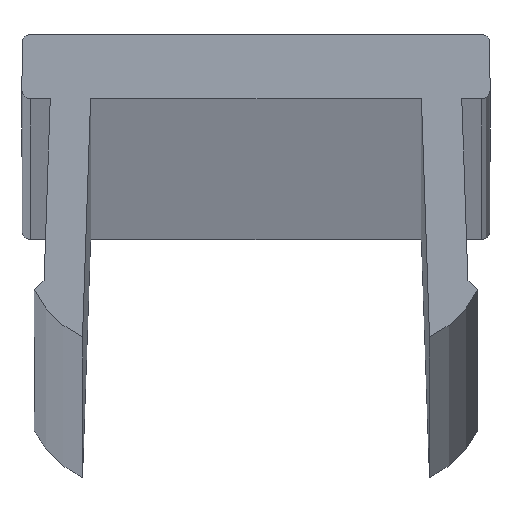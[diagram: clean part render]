
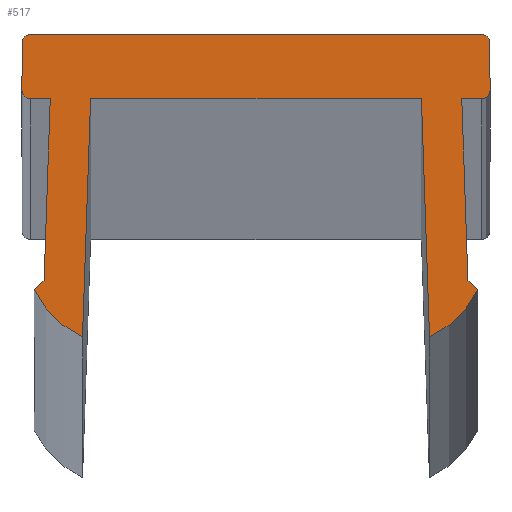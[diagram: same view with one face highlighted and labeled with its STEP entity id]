
A CAD part, top view. The second image highlights one B-rep face of the part: STEP entity #517.
In plain terms, the highlighted planar face has unit normal (0, 0, 1).
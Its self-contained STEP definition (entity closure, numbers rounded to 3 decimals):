
#3 = VERTEX_POINT ( 'NONE', #299 ) ;
#5 = CARTESIAN_POINT ( 'NONE',  ( 5.6, -0.2, 1000. ) ) ;
#7 = VECTOR ( 'NONE', #213, 1000. ) ;
#9 = VERTEX_POINT ( 'NONE', #400 ) ;
#13 = CIRCLE ( 'NONE', #441, 0.2 ) ;
#18 = VECTOR ( 'NONE', #393, 1000. ) ;
#24 = CARTESIAN_POINT ( 'NONE',  ( 5.1, -1.6, 1000. ) ) ;
#26 = VERTEX_POINT ( 'NONE', #521 ) ;
#30 = VERTEX_POINT ( 'NONE', #681 ) ;
#33 = CARTESIAN_POINT ( 'NONE',  ( -5.253, -6.1, 1000. ) ) ;
#44 = AXIS2_PLACEMENT_3D ( 'NONE', #502, #341, #667 ) ;
#50 = EDGE_CURVE ( 'NONE', #79, #30, #454, .T. ) ;
#52 = LINE ( 'NONE', #286, #497 ) ;
#65 = AXIS2_PLACEMENT_3D ( 'NONE', #397, #222, #564 ) ;
#68 = ORIENTED_EDGE ( 'NONE', *, *, #411, .T. ) ;
#71 = ORIENTED_EDGE ( 'NONE', *, *, #531, .T. ) ;
#77 = CARTESIAN_POINT ( 'NONE',  ( -4.1, -1.6, 1000. ) ) ;
#79 = VERTEX_POINT ( 'NONE', #33 ) ;
#83 = CARTESIAN_POINT ( 'NONE',  ( 5.5, -6.331, 1000. ) ) ;
#91 = CARTESIAN_POINT ( 'NONE',  ( 5.8, -0.2, 1000. ) ) ;
#99 = DIRECTION ( 'NONE',  ( 0., 0., -1. ) ) ;
#104 = CARTESIAN_POINT ( 'NONE',  ( 5.253, -6.1, 1000. ) ) ;
#109 = CARTESIAN_POINT ( 'NONE',  ( -5.6, -1.6, 1000. ) ) ;
#114 = VECTOR ( 'NONE', #422, 1000. ) ;
#117 = EDGE_CURVE ( 'NONE', #541, #416, #469, .T. ) ;
#127 = AXIS2_PLACEMENT_3D ( 'NONE', #590, #549, #595 ) ;
#130 = EDGE_CURVE ( 'NONE', #504, #306, #490, .T. ) ;
#133 = PLANE ( 'NONE',  #553 ) ;
#137 = CIRCLE ( 'NONE', #127, 0.2 ) ;
#138 = FACE_OUTER_BOUND ( 'NONE', #561, .T. ) ;
#141 = EDGE_CURVE ( 'NONE', #9, #26, #13, .T. ) ;
#143 = DIRECTION ( 'NONE',  ( 0., 0., 1. ) ) ;
#145 = ORIENTED_EDGE ( 'NONE', *, *, #383, .T. ) ;
#156 = AXIS2_PLACEMENT_3D ( 'NONE', #216, #99, #432 ) ;
#166 = CARTESIAN_POINT ( 'NONE',  ( 4.3, -7.5, 1000. ) ) ;
#169 = DIRECTION ( 'NONE',  ( 0.034, 0.999, 0. ) ) ;
#172 = ORIENTED_EDGE ( 'NONE', *, *, #141, .F. ) ;
#173 = DIRECTION ( 'NONE',  ( 0., 1., 0. ) ) ;
#175 = LINE ( 'NONE', #235, #401 ) ;
#193 = CARTESIAN_POINT ( 'NONE',  ( -5.1, -1.6, 1000. ) ) ;
#198 = VERTEX_POINT ( 'NONE', #104 ) ;
#200 = DIRECTION ( 'NONE',  ( 1., 0., 0. ) ) ;
#204 = VECTOR ( 'NONE', #673, 1000. ) ;
#207 = LINE ( 'NONE', #265, #114 ) ;
#213 = DIRECTION ( 'NONE',  ( -1., 0., 0. ) ) ;
#216 = CARTESIAN_POINT ( 'NONE',  ( 3.256, -5.228, 1000. ) ) ;
#217 = CARTESIAN_POINT ( 'NONE',  ( 5.253, -6.1, 1000. ) ) ;
#222 = DIRECTION ( 'NONE',  ( 0., 0., -1. ) ) ;
#230 = DIRECTION ( 'NONE',  ( 1., 0., 0. ) ) ;
#235 = CARTESIAN_POINT ( 'NONE',  ( -5.1, -1.6, 1000. ) ) ;
#243 = EDGE_CURVE ( 'NONE', #532, #452, #582, .T. ) ;
#244 = CARTESIAN_POINT ( 'NONE',  ( -5.6, 0., 1000. ) ) ;
#251 = ORIENTED_EDGE ( 'NONE', *, *, #117, .T. ) ;
#252 = DIRECTION ( 'NONE',  ( 1., 0., 0. ) ) ;
#265 = CARTESIAN_POINT ( 'NONE',  ( 5.253, -6.1, 1000. ) ) ;
#266 = EDGE_CURVE ( 'NONE', #532, #416, #606, .T. ) ;
#271 = CARTESIAN_POINT ( 'NONE',  ( 5.6, -1.4, 1000. ) ) ;
#276 = CIRCLE ( 'NONE', #310, 0.2 ) ;
#286 = CARTESIAN_POINT ( 'NONE',  ( 5.8, -0.2, 1000. ) ) ;
#291 = VECTOR ( 'NONE', #410, 1000. ) ;
#295 = LINE ( 'NONE', #577, #565 ) ;
#296 = CARTESIAN_POINT ( 'NONE',  ( -5.253, -6.1, 1000. ) ) ;
#297 = VECTOR ( 'NONE', #169, 1000. ) ;
#298 = CARTESIAN_POINT ( 'NONE',  ( -5.6, -1.6, 1000. ) ) ;
#299 = CARTESIAN_POINT ( 'NONE',  ( 5.6, 0., 1000. ) ) ;
#302 = CARTESIAN_POINT ( 'NONE',  ( -5.6, -0.2, 1000. ) ) ;
#306 = VERTEX_POINT ( 'NONE', #166 ) ;
#310 = AXIS2_PLACEMENT_3D ( 'NONE', #5, #335, #230 ) ;
#315 = EDGE_CURVE ( 'NONE', #9, #637, #52, .T. ) ;
#324 = CARTESIAN_POINT ( 'NONE',  ( -5.8, -0.2, 1000. ) ) ;
#326 = DIRECTION ( 'NONE',  ( 1., 0., 0. ) ) ;
#335 = DIRECTION ( 'NONE',  ( 0., 0., 1. ) ) ;
#339 = ORIENTED_EDGE ( 'NONE', *, *, #130, .F. ) ;
#341 = DIRECTION ( 'NONE',  ( 0., 0., -1. ) ) ;
#349 = DIRECTION ( 'NONE',  ( 1., 0., 0. ) ) ;
#352 = CARTESIAN_POINT ( 'NONE',  ( -5.6, -1.6, 1000. ) ) ;
#358 = VECTOR ( 'NONE', #326, 1000. ) ;
#362 = ORIENTED_EDGE ( 'NONE', *, *, #501, .T. ) ;
#371 = EDGE_CURVE ( 'NONE', #601, #30, #664, .T. ) ;
#372 = ORIENTED_EDGE ( 'NONE', *, *, #597, .F. ) ;
#375 = CARTESIAN_POINT ( 'NONE',  ( 5.6, 0., 1000. ) ) ;
#380 = EDGE_CURVE ( 'NONE', #637, #3, #276, .T. ) ;
#383 = EDGE_CURVE ( 'NONE', #601, #522, #558, .T. ) ;
#393 = DIRECTION ( 'NONE',  ( 0.034, -0.999, 0. ) ) ;
#397 = CARTESIAN_POINT ( 'NONE',  ( -3.256, -5.228, 1000. ) ) ;
#400 = CARTESIAN_POINT ( 'NONE',  ( 5.8, -1.4, 1000. ) ) ;
#401 = VECTOR ( 'NONE', #453, 1000. ) ;
#403 = ORIENTED_EDGE ( 'NONE', *, *, #433, .T. ) ;
#410 = DIRECTION ( 'NONE',  ( 0., -1., 0. ) ) ;
#411 = EDGE_CURVE ( 'NONE', #470, #306, #505, .T. ) ;
#416 = VERTEX_POINT ( 'NONE', #613 ) ;
#422 = DIRECTION ( 'NONE',  ( -0.034, 0.999, 0. ) ) ;
#431 = LINE ( 'NONE', #375, #7 ) ;
#432 = DIRECTION ( 'NONE',  ( 1., 0., 0. ) ) ;
#433 = EDGE_CURVE ( 'NONE', #452, #79, #175, .T. ) ;
#441 = AXIS2_PLACEMENT_3D ( 'NONE', #271, #700, #252 ) ;
#446 = CARTESIAN_POINT ( 'NONE',  ( 4.1, -1.6, 1000. ) ) ;
#451 = CARTESIAN_POINT ( 'NONE',  ( -4.3, -7.5, 1000. ) ) ;
#452 = VERTEX_POINT ( 'NONE', #193 ) ;
#453 = DIRECTION ( 'NONE',  ( -0.034, -0.999, 0. ) ) ;
#454 = LINE ( 'NONE', #296, #204 ) ;
#469 = LINE ( 'NONE', #324, #291 ) ;
#470 = VERTEX_POINT ( 'NONE', #638 ) ;
#481 = ORIENTED_EDGE ( 'NONE', *, *, #701, .T. ) ;
#490 = CIRCLE ( 'NONE', #156, 2.5 ) ;
#497 = VECTOR ( 'NONE', #173, 1000. ) ;
#500 = VERTEX_POINT ( 'NONE', #24 ) ;
#501 = EDGE_CURVE ( 'NONE', #522, #470, #580, .T. ) ;
#502 = CARTESIAN_POINT ( 'NONE',  ( -5.6, -1.4, 1000. ) ) ;
#504 = VERTEX_POINT ( 'NONE', #83 ) ;
#505 = LINE ( 'NONE', #446, #18 ) ;
#517 = ADVANCED_FACE ( 'NONE', ( #138 ), #133, .T. ) ;
#520 = CARTESIAN_POINT ( 'NONE',  ( -5.8, -0.2, 1000. ) ) ;
#521 = CARTESIAN_POINT ( 'NONE',  ( 5.6, -1.6, 1000. ) ) ;
#522 = VERTEX_POINT ( 'NONE', #77 ) ;
#525 = VECTOR ( 'NONE', #200, 1000. ) ;
#528 = VERTEX_POINT ( 'NONE', #244 ) ;
#529 = ORIENTED_EDGE ( 'NONE', *, *, #266, .F. ) ;
#531 = EDGE_CURVE ( 'NONE', #500, #26, #295, .T. ) ;
#532 = VERTEX_POINT ( 'NONE', #298 ) ;
#539 = CARTESIAN_POINT ( 'NONE',  ( -4.3, -7.5, 1000. ) ) ;
#541 = VERTEX_POINT ( 'NONE', #520 ) ;
#546 = VECTOR ( 'NONE', #598, 1000. ) ;
#549 = DIRECTION ( 'NONE',  ( 0., 0., -1. ) ) ;
#553 = AXIS2_PLACEMENT_3D ( 'NONE', #302, #143, #349 ) ;
#558 = LINE ( 'NONE', #451, #297 ) ;
#561 = EDGE_LOOP ( 'NONE', ( #172, #685, #635, #573, #372, #251, #529, #579, #403, #611, #697, #145, #362, #68, #339, #619, #481, #71 ) ) ;
#564 = DIRECTION ( 'NONE',  ( 1., 0., 0. ) ) ;
#565 = VECTOR ( 'NONE', #692, 1000. ) ;
#573 = ORIENTED_EDGE ( 'NONE', *, *, #576, .T. ) ;
#576 = EDGE_CURVE ( 'NONE', #3, #528, #431, .T. ) ;
#577 = CARTESIAN_POINT ( 'NONE',  ( 5.6, -1.6, 1000. ) ) ;
#579 = ORIENTED_EDGE ( 'NONE', *, *, #243, .T. ) ;
#580 = LINE ( 'NONE', #352, #525 ) ;
#582 = LINE ( 'NONE', #109, #358 ) ;
#590 = CARTESIAN_POINT ( 'NONE',  ( -5.6, -0.2, 1000. ) ) ;
#595 = DIRECTION ( 'NONE',  ( 1., 0., 0. ) ) ;
#597 = EDGE_CURVE ( 'NONE', #541, #528, #137, .T. ) ;
#598 = DIRECTION ( 'NONE',  ( -0.731, 0.683, 0. ) ) ;
#601 = VERTEX_POINT ( 'NONE', #539 ) ;
#606 = CIRCLE ( 'NONE', #44, 0.2 ) ;
#611 = ORIENTED_EDGE ( 'NONE', *, *, #50, .T. ) ;
#613 = CARTESIAN_POINT ( 'NONE',  ( -5.8, -1.4, 1000. ) ) ;
#619 = ORIENTED_EDGE ( 'NONE', *, *, #640, .T. ) ;
#635 = ORIENTED_EDGE ( 'NONE', *, *, #380, .T. ) ;
#637 = VERTEX_POINT ( 'NONE', #91 ) ;
#638 = CARTESIAN_POINT ( 'NONE',  ( 4.1, -1.6, 1000. ) ) ;
#640 = EDGE_CURVE ( 'NONE', #504, #198, #696, .T. ) ;
#664 = CIRCLE ( 'NONE', #65, 2.5 ) ;
#667 = DIRECTION ( 'NONE',  ( 1., 0., 0. ) ) ;
#673 = DIRECTION ( 'NONE',  ( -0.731, -0.683, 0. ) ) ;
#681 = CARTESIAN_POINT ( 'NONE',  ( -5.5, -6.331, 1000. ) ) ;
#685 = ORIENTED_EDGE ( 'NONE', *, *, #315, .T. ) ;
#692 = DIRECTION ( 'NONE',  ( 1., 0., 0. ) ) ;
#696 = LINE ( 'NONE', #217, #546 ) ;
#697 = ORIENTED_EDGE ( 'NONE', *, *, #371, .F. ) ;
#700 = DIRECTION ( 'NONE',  ( 0., 0., -1. ) ) ;
#701 = EDGE_CURVE ( 'NONE', #198, #500, #207, .T. ) ;
